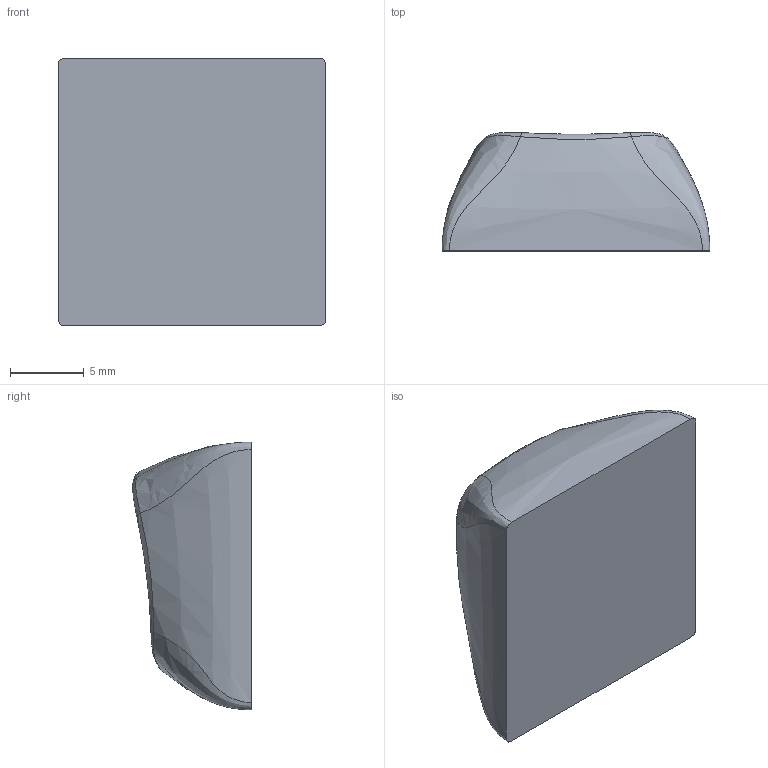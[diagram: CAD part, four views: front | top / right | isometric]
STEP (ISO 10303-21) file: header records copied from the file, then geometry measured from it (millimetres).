
FILE_DESCRIPTION (( 'STEP AP203' ), '1' );
FILE_NAME ('R2_1U_base_v3.2_GMK.STEP', '2023-03-07T08:53:07', ( '' ), ( '' ), 'SwSTEP 2.0', 'SolidWorks 2022', '' );
FILE_SCHEMA (( 'CONFIG_CONTROL_DESIGN' ));
Length unit declared in the file: millimetre
Products named in the file (1): R2_1U_base_v3.2_GMK
Bounding box: 18.2 x 8.05 x 18.2 mm (x, y, z)
Volume: 1880.1 mm3; surface area: 985.3 mm2
Topology: 1 solids, 1 shells, 18 faces, 40 edges, 24 vertices
Faces by surface type: bspline 17, plane 1
Entity records: 2940 total; most frequent: CARTESIAN_POINT 2597, ORIENTED_EDGE 80, EDGE_CURVE 40, B_SPLINE_CURVE_WITH_KNOTS 36, VERTEX_POINT 24, FACE_OUTER_BOUND 18, EDGE_LOOP 18, ADVANCED_FACE 18
